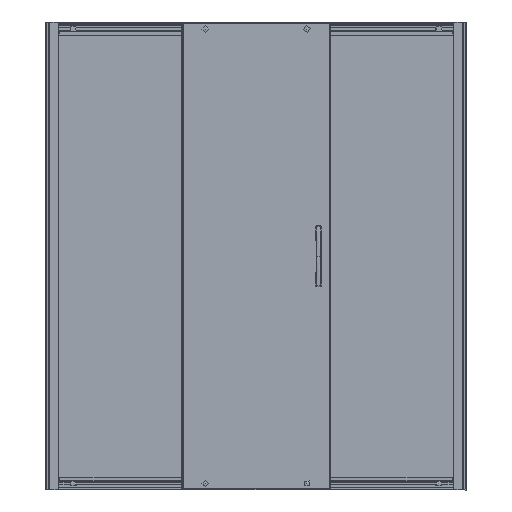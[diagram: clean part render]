
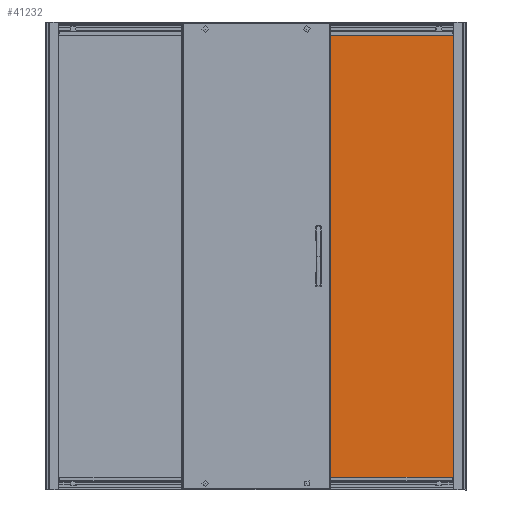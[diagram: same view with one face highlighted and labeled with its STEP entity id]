
A CAD part, left-side view. The second image highlights one B-rep face of the part: STEP entity #41232.
In plain terms, the highlighted planar face has unit normal (-1, 0, 0).
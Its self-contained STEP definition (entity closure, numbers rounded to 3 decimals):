
#1849=LINE($,#75009,#5571);
#1859=LINE($,#75041,#5581);
#1865=LINE($,#75065,#5587);
#1871=LINE($,#75077,#5593);
#1888=LINE($,#75130,#5610);
#1897=LINE($,#75156,#5619);
#1904=LINE($,#75215,#5626);
#2052=LINE($,#75636,#5774);
#2264=LINE($,#76245,#5986);
#2327=LINE($,#76459,#6049);
#2392=LINE($,#76917,#6114);
#2393=LINE($,#76919,#6115);
#2394=LINE($,#76920,#6116);
#5571=VECTOR($,#49390,2.557);
#5581=VECTOR($,#49412,1882.);
#5587=VECTOR($,#49430,0.1);
#5593=VECTOR($,#49442,1882.);
#5610=VECTOR($,#49483,1882.);
#5619=VECTOR($,#49506,1.024);
#5626=VECTOR($,#49523,2.443);
#5774=VECTOR($,#49815,540.);
#5986=VECTOR($,#50345,1891.127);
#6049=VECTOR($,#50496,3.471);
#6114=VECTOR($,#50677,534.1);
#6115=VECTOR($,#50678,0.7);
#6116=VECTOR($,#50679,2.933);
#9008=PLANE($,#44154);
#11574=FACE_OUTER_BOUND($,#13942,.T.);
#13942=EDGE_LOOP($,(#30544,#30545,#30546,#30547,#30548,#30549,#30550,#30551,
#30552,#30553,#30554,#30555,#30556,#30557));
#16013=CIRCLE($,#44127,1.);
#17953=VERTEX_POINT($,#75007);
#17954=VERTEX_POINT($,#75008);
#17956=VERTEX_POINT($,#75012);
#17966=VERTEX_POINT($,#75040);
#17972=VERTEX_POINT($,#75061);
#17974=VERTEX_POINT($,#75064);
#17991=VERTEX_POINT($,#75128);
#18001=VERTEX_POINT($,#75155);
#18174=VERTEX_POINT($,#75633);
#18175=VERTEX_POINT($,#75635);
#18353=VERTEX_POINT($,#76244);
#18415=VERTEX_POINT($,#76455);
#18417=VERTEX_POINT($,#76458);
#18480=VERTEX_POINT($,#76918);
#22217=EDGE_CURVE($,#17953,#17954,#1849,.T.);
#22231=EDGE_CURVE($,#17966,#17953,#1859,.T.);
#22241=EDGE_CURVE($,#17974,#17972,#1865,.T.);
#22248=EDGE_CURVE($,#17954,#17974,#1871,.T.);
#22272=EDGE_CURVE($,#17956,#17991,#1888,.T.);
#22284=EDGE_CURVE($,#18001,#17956,#1897,.T.);
#22296=EDGE_CURVE($,#17991,#17966,#1904,.T.);
#22490=EDGE_CURVE($,#18175,#18174,#2052,.T.);
#22767=EDGE_CURVE($,#18353,#18175,#2264,.T.);
#22856=EDGE_CURVE($,#18417,#18415,#2327,.T.);
#22907=EDGE_CURVE($,#17972,#18417,#16013,.T.);
#22961=EDGE_CURVE($,#18415,#18353,#2392,.T.);
#22962=EDGE_CURVE($,#18174,#18480,#2393,.T.);
#22963=EDGE_CURVE($,#18480,#18001,#2394,.T.);
#30544=ORIENTED_EDGE($,*,*,#22241,.T.);
#30545=ORIENTED_EDGE($,*,*,#22907,.T.);
#30546=ORIENTED_EDGE($,*,*,#22856,.T.);
#30547=ORIENTED_EDGE($,*,*,#22961,.T.);
#30548=ORIENTED_EDGE($,*,*,#22767,.T.);
#30549=ORIENTED_EDGE($,*,*,#22490,.T.);
#30550=ORIENTED_EDGE($,*,*,#22962,.T.);
#30551=ORIENTED_EDGE($,*,*,#22963,.T.);
#30552=ORIENTED_EDGE($,*,*,#22284,.T.);
#30553=ORIENTED_EDGE($,*,*,#22272,.T.);
#30554=ORIENTED_EDGE($,*,*,#22296,.T.);
#30555=ORIENTED_EDGE($,*,*,#22231,.T.);
#30556=ORIENTED_EDGE($,*,*,#22217,.T.);
#30557=ORIENTED_EDGE($,*,*,#22248,.T.);
#41232=ADVANCED_FACE($,(#11574),#9008,.T.);
#44127=AXIS2_PLACEMENT_3D($,#76753,#50584,#50585);
#44154=AXIS2_PLACEMENT_3D($,#76916,#50675,#50676);
#49390=DIRECTION($,(0.,-1.,0.));
#49412=DIRECTION($,(0.,0.,1.));
#49430=DIRECTION($,(0.,1.,0.));
#49442=DIRECTION($,(0.,0.,-1.));
#49483=DIRECTION($,(0.,0.,-1.));
#49506=DIRECTION($,(0.,0.,-1.));
#49523=DIRECTION($,(0.,-1.,0.));
#49815=DIRECTION($,(0.,1.,0.));
#50345=DIRECTION($,(0.,0.,1.));
#50496=DIRECTION($,(0.,0.,-1.));
#50584=DIRECTION('center_axis',(1.,0.,0.));
#50585=DIRECTION('ref_axis',(0.,-0.707,
0.707));
#50675=DIRECTION('center_axis',(-1.,0.,0.));
#50676=DIRECTION('ref_axis',(0.,1.,0.));
#50677=DIRECTION($,(0.,-1.,0.));
#50678=DIRECTION($,(0.,0.,-1.));
#50679=DIRECTION($,(0.,0.,-1.));
#75007=CARTESIAN_POINT('',(846.186,-116.957,1951.044));
#75008=CARTESIAN_POINT('',(846.186,-119.514,1951.044));
#75009=CARTESIAN_POINT($,(846.186,-316.614,1951.044));
#75012=CARTESIAN_POINT('',(846.186,-114.514,1951.044));
#75040=CARTESIAN_POINT('',(846.186,-116.957,69.044));
#75041=CARTESIAN_POINT($,(846.186,-116.957,1242.022));
#75061=CARTESIAN_POINT('',(846.186,-119.414,69.044));
#75064=CARTESIAN_POINT('',(846.186,-119.514,69.044));
#75065=CARTESIAN_POINT($,(846.186,-316.614,69.044));
#75077=CARTESIAN_POINT($,(846.186,-119.514,1242.022));
#75128=CARTESIAN_POINT('',(846.186,-114.514,69.044));
#75130=CARTESIAN_POINT($,(846.186,-114.514,1964.));
#75155=CARTESIAN_POINT('',(846.186,-114.514,1952.067));
#75156=CARTESIAN_POINT($,(846.186,-114.514,1964.));
#75215=CARTESIAN_POINT($,(846.186,-314.201,69.044));
#75633=CARTESIAN_POINT('',(846.186,-114.514,1955.7));
#75635=CARTESIAN_POINT('',(846.186,-654.514,1955.7));
#75636=CARTESIAN_POINT($,(846.186,-654.514,1955.7));
#76244=CARTESIAN_POINT('',(846.186,-654.514,64.573));
#76245=CARTESIAN_POINT($,(846.186,-654.514,56.));
#76455=CARTESIAN_POINT('',(846.186,-120.414,64.573));
#76458=CARTESIAN_POINT('',(846.186,-120.414,68.044));
#76459=CARTESIAN_POINT($,(846.186,-120.414,301.022));
#76753=CARTESIAN_POINT('Origin',(846.186,-119.414,68.044));
#76916=CARTESIAN_POINT('Origin',(846.186,-519.514,533.));
#76917=CARTESIAN_POINT($,(846.186,-114.514,64.573));
#76918=CARTESIAN_POINT('',(846.186,-114.514,1955.));
#76919=CARTESIAN_POINT($,(846.186,-114.514,1964.));
#76920=CARTESIAN_POINT($,(846.186,-114.514,1964.));
